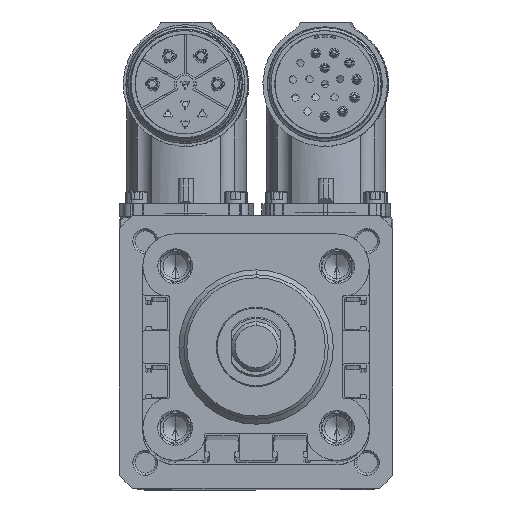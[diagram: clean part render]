
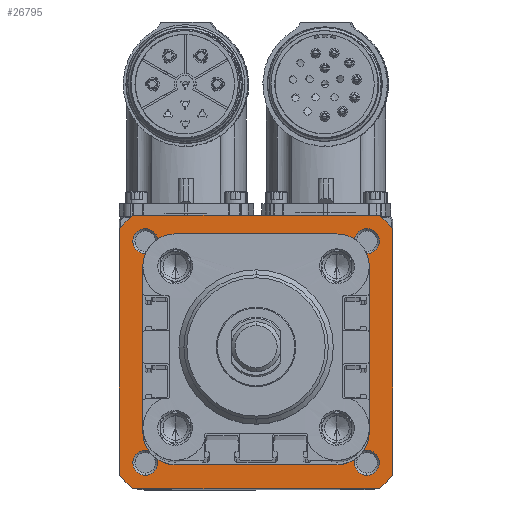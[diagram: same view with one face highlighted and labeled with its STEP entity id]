
A CAD part, top view. The second image highlights one B-rep face of the part: STEP entity #26795.
In plain terms, the highlighted planar face has unit normal (0, 0, 1) as drawn and (0, 0, -1) by its records, which use the part's own axes.
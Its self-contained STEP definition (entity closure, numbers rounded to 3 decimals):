
#24885=CARTESIAN_POINT('',(0.,0.,0.));
#24886=DIRECTION('',(0.,0.,1.));
#24887=DIRECTION('',(0.,1.,0.));
#24888=AXIS2_PLACEMENT_3D('',#24885,#24886,#24887);
#24890=CARTESIAN_POINT('',(0.,0.,0.));
#24891=DIRECTION('',(0.,0.,-1.));
#24892=DIRECTION('',(0.,1.,0.));
#24893=AXIS2_PLACEMENT_3D('',#24890,#24891,#24892);
#24895=CARTESIAN_POINT('',(0.,0.,0.));
#24896=DIRECTION('',(0.,0.,1.));
#24897=DIRECTION('',(-0.669,0.743,0.));
#24898=AXIS2_PLACEMENT_3D('',#24895,#24896,#24897);
#24900=DIRECTION('',(0.,1.,0.));
#24901=VECTOR('',#24900,49.508);
#24902=CARTESIAN_POINT('',(-27.5,-24.754,0.));
#24903=LINE('',#24902,#24901);
#24904=CARTESIAN_POINT('',(0.,0.,0.));
#24905=DIRECTION('',(0.,0.,1.));
#24906=DIRECTION('',(-0.743,-0.669,0.));
#24907=AXIS2_PLACEMENT_3D('',#24904,#24905,#24906);
#24909=DIRECTION('',(-1.,0.,0.));
#24910=VECTOR('',#24909,49.508);
#24911=CARTESIAN_POINT('',(24.754,-27.5,0.));
#24912=LINE('',#24911,#24910);
#24913=CARTESIAN_POINT('',(0.,0.,0.));
#24914=DIRECTION('',(0.,0.,1.));
#24915=DIRECTION('',(0.669,-0.743,0.));
#24916=AXIS2_PLACEMENT_3D('',#24913,#24914,#24915);
#24918=DIRECTION('',(0.,-1.,0.));
#24919=VECTOR('',#24918,49.508);
#24920=CARTESIAN_POINT('',(27.5,24.754,0.));
#24921=LINE('',#24920,#24919);
#24922=CARTESIAN_POINT('',(0.,0.,0.));
#24923=DIRECTION('',(0.,0.,1.));
#24924=DIRECTION('',(0.743,0.669,0.));
#24925=AXIS2_PLACEMENT_3D('',#24922,#24923,#24924);
#24927=DIRECTION('',(1.,0.,0.));
#24928=VECTOR('',#24927,49.508);
#24929=CARTESIAN_POINT('',(-24.754,27.5,0.));
#24930=LINE('',#24929,#24928);
#24931=CARTESIAN_POINT('',(22.274,22.274,0.));
#24932=DIRECTION('',(0.,0.,1.));
#24933=DIRECTION('',(0.,1.,0.));
#24934=AXIS2_PLACEMENT_3D('',#24931,#24932,#24933);
#24936=CARTESIAN_POINT('',(22.274,22.274,0.));
#24937=DIRECTION('',(0.,0.,1.));
#24938=DIRECTION('',(0.,-1.,0.));
#24939=AXIS2_PLACEMENT_3D('',#24936,#24937,#24938);
#24941=CARTESIAN_POINT('',(22.274,-22.274,0.));
#24942=DIRECTION('',(0.,0.,-1.));
#24943=DIRECTION('',(0.,-1.,0.));
#24944=AXIS2_PLACEMENT_3D('',#24941,#24942,#24943);
#24946=CARTESIAN_POINT('',(22.274,-22.274,0.));
#24947=DIRECTION('',(0.,0.,-1.));
#24948=DIRECTION('',(0.,1.,0.));
#24949=AXIS2_PLACEMENT_3D('',#24946,#24947,#24948);
#24951=CARTESIAN_POINT('',(-22.274,22.274,0.));
#24952=DIRECTION('',(0.,0.,1.));
#24953=DIRECTION('',(0.,1.,0.));
#24954=AXIS2_PLACEMENT_3D('',#24951,#24952,#24953);
#24956=CARTESIAN_POINT('',(-22.274,22.274,0.));
#24957=DIRECTION('',(0.,0.,1.));
#24958=DIRECTION('',(0.,-1.,0.));
#24959=AXIS2_PLACEMENT_3D('',#24956,#24957,#24958);
#24961=CARTESIAN_POINT('',(-22.274,-22.274,0.));
#24962=DIRECTION('',(0.,0.,-1.));
#24963=DIRECTION('',(0.,-1.,0.));
#24964=AXIS2_PLACEMENT_3D('',#24961,#24962,#24963);
#24966=CARTESIAN_POINT('',(-22.274,-22.274,0.));
#24967=DIRECTION('',(0.,0.,-1.));
#24968=DIRECTION('',(0.,1.,0.));
#24969=AXIS2_PLACEMENT_3D('',#24966,#24967,#24968);
#25815=CARTESIAN_POINT('',(0.,22.289,0.));
#25816=VERTEX_POINT('',#25815);
#25823=CARTESIAN_POINT('',(0.,-22.289,0.));
#25824=VERTEX_POINT('',#25823);
#25825=CARTESIAN_POINT('',(-24.754,27.5,0.));
#25826=CARTESIAN_POINT('',(-27.5,24.754,0.));
#25827=VERTEX_POINT('',#25825);
#25828=VERTEX_POINT('',#25826);
#25829=CARTESIAN_POINT('',(24.754,27.5,0.));
#25830=VERTEX_POINT('',#25829);
#25831=CARTESIAN_POINT('',(27.5,24.754,0.));
#25832=VERTEX_POINT('',#25831);
#25833=CARTESIAN_POINT('',(27.5,-24.754,0.));
#25834=VERTEX_POINT('',#25833);
#25835=CARTESIAN_POINT('',(24.754,-27.5,0.));
#25836=VERTEX_POINT('',#25835);
#25837=CARTESIAN_POINT('',(-24.754,-27.5,0.));
#25838=VERTEX_POINT('',#25837);
#25839=CARTESIAN_POINT('',(-27.5,-24.754,0.));
#25840=VERTEX_POINT('',#25839);
#25865=CARTESIAN_POINT('',(22.274,24.774,0.));
#25866=CARTESIAN_POINT('',(22.274,19.774,0.));
#25867=VERTEX_POINT('',#25865);
#25868=VERTEX_POINT('',#25866);
#26168=CARTESIAN_POINT('',(22.274,-24.774,0.));
#26169=CARTESIAN_POINT('',(22.274,-19.774,0.));
#26170=VERTEX_POINT('',#26168);
#26171=VERTEX_POINT('',#26169);
#26184=CARTESIAN_POINT('',(-22.274,24.774,0.));
#26185=CARTESIAN_POINT('',(-22.274,19.774,0.));
#26186=VERTEX_POINT('',#26184);
#26187=VERTEX_POINT('',#26185);
#26200=CARTESIAN_POINT('',(-22.274,-24.774,0.));
#26201=CARTESIAN_POINT('',(-22.274,-19.774,0.));
#26202=VERTEX_POINT('',#26200);
#26203=VERTEX_POINT('',#26201);
#26743=CARTESIAN_POINT('',(0.,0.,0.));
#26744=DIRECTION('',(0.,0.,1.));
#26745=DIRECTION('',(0.,1.,0.));
#26746=AXIS2_PLACEMENT_3D('',#26743,#26744,#26745);
#26747=PLANE('',#26746);
#26748=ORIENTED_EDGE('',*,*,#26733,.T.);
#26750=ORIENTED_EDGE('',*,*,#26749,.F.);
#26752=ORIENTED_EDGE('',*,*,#26751,.T.);
#26754=ORIENTED_EDGE('',*,*,#26753,.F.);
#26756=ORIENTED_EDGE('',*,*,#26755,.T.);
#26758=ORIENTED_EDGE('',*,*,#26757,.F.);
#26760=ORIENTED_EDGE('',*,*,#26759,.T.);
#26762=ORIENTED_EDGE('',*,*,#26761,.F.);
#26763=EDGE_LOOP('',(#26748,#26750,#26752,#26754,#26756,#26758,#26760,#26762));
#26764=FACE_OUTER_BOUND('',#26763,.F.);
#26766=ORIENTED_EDGE('',*,*,#26765,.F.);
#26768=ORIENTED_EDGE('',*,*,#26767,.T.);
#26769=EDGE_LOOP('',(#26766,#26768));
#26770=FACE_BOUND('',#26769,.F.);
#26772=ORIENTED_EDGE('',*,*,#26771,.F.);
#26774=ORIENTED_EDGE('',*,*,#26773,.F.);
#26775=EDGE_LOOP('',(#26772,#26774));
#26776=FACE_BOUND('',#26775,.F.);
#26778=ORIENTED_EDGE('',*,*,#26777,.T.);
#26780=ORIENTED_EDGE('',*,*,#26779,.T.);
#26781=EDGE_LOOP('',(#26778,#26780));
#26782=FACE_BOUND('',#26781,.F.);
#26784=ORIENTED_EDGE('',*,*,#26783,.F.);
#26786=ORIENTED_EDGE('',*,*,#26785,.F.);
#26787=EDGE_LOOP('',(#26784,#26786));
#26788=FACE_BOUND('',#26787,.F.);
#26790=ORIENTED_EDGE('',*,*,#26789,.T.);
#26792=ORIENTED_EDGE('',*,*,#26791,.T.);
#26793=EDGE_LOOP('',(#26790,#26792));
#26794=FACE_BOUND('',#26793,.F.);
#26795=ADVANCED_FACE('',(#26764,#26770,#26776,#26782,#26788,#26794),#26747,.F.);
#24889=CIRCLE('',#24888,22.289);
#24894=CIRCLE('',#24893,22.289);
#24899=CIRCLE('',#24898,37.);
#24908=CIRCLE('',#24907,37.);
#24917=CIRCLE('',#24916,37.);
#24926=CIRCLE('',#24925,37.);
#24935=CIRCLE('',#24934,2.5);
#24940=CIRCLE('',#24939,2.5);
#24945=CIRCLE('',#24944,2.5);
#24950=CIRCLE('',#24949,2.5);
#24955=CIRCLE('',#24954,2.5);
#24960=CIRCLE('',#24959,2.5);
#24965=CIRCLE('',#24964,2.5);
#24970=CIRCLE('',#24969,2.5);
#26733=EDGE_CURVE('',#25827,#25828,#24899,.T.);
#26749=EDGE_CURVE('',#25840,#25828,#24903,.T.);
#26751=EDGE_CURVE('',#25840,#25838,#24908,.T.);
#26753=EDGE_CURVE('',#25836,#25838,#24912,.T.);
#26755=EDGE_CURVE('',#25836,#25834,#24917,.T.);
#26757=EDGE_CURVE('',#25832,#25834,#24921,.T.);
#26759=EDGE_CURVE('',#25832,#25830,#24926,.T.);
#26761=EDGE_CURVE('',#25827,#25830,#24930,.T.);
#26765=EDGE_CURVE('',#25816,#25824,#24889,.T.);
#26767=EDGE_CURVE('',#25816,#25824,#24894,.T.);
#26771=EDGE_CURVE('',#25867,#25868,#24935,.T.);
#26773=EDGE_CURVE('',#25868,#25867,#24940,.T.);
#26777=EDGE_CURVE('',#26170,#26171,#24945,.T.);
#26779=EDGE_CURVE('',#26171,#26170,#24950,.T.);
#26783=EDGE_CURVE('',#26186,#26187,#24955,.T.);
#26785=EDGE_CURVE('',#26187,#26186,#24960,.T.);
#26789=EDGE_CURVE('',#26202,#26203,#24965,.T.);
#26791=EDGE_CURVE('',#26203,#26202,#24970,.T.);
